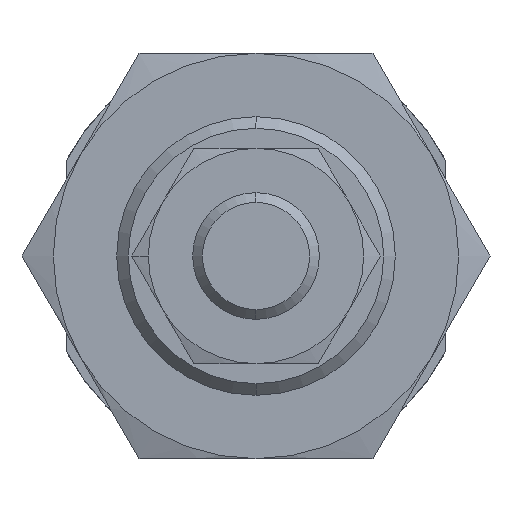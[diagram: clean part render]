
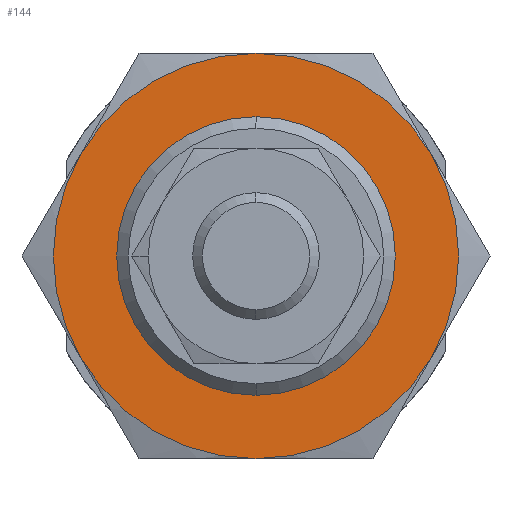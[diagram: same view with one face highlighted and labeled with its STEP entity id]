
A CAD part, left-side view. The second image highlights one B-rep face of the part: STEP entity #144.
In plain terms, the highlighted planar face has unit normal (-1, 0, 0).
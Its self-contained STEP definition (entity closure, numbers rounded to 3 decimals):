
#14 = DIRECTION ( 'NONE',  ( 0., 0., -1. ) ) ;
#47 = DIRECTION ( 'NONE',  ( 0., 0., -1. ) ) ;
#111 = DIRECTION ( 'NONE',  ( 0., 0., -1. ) ) ;
#123 = EDGE_CURVE ( 'NONE', #264, #530, #2021, .T. ) ;
#131 = CARTESIAN_POINT ( 'NONE',  ( -17.5, 0., 0. ) ) ;
#133 = EDGE_CURVE ( 'NONE', #4004, #3432, #498, .T. ) ;
#144 = ADVANCED_FACE ( 'NONE', ( #3423, #2453 ), #760, .T. ) ;
#264 = VERTEX_POINT ( 'NONE', #820 ) ;
#352 = EDGE_LOOP ( 'NONE', ( #3073, #1551, #1481, #3953, #2028, #3569 ) ) ;
#430 = CARTESIAN_POINT ( 'NONE',  ( -17.5, 13.856, 8. ) ) ;
#440 = DIRECTION ( 'NONE',  ( 0., 0., 1. ) ) ;
#457 = CARTESIAN_POINT ( 'NONE',  ( -17.5, 16., 0. ) ) ;
#498 = CIRCLE ( 'NONE', #1672, 16. ) ;
#510 = DIRECTION ( 'NONE',  ( 1., 0., 0. ) ) ;
#530 = VERTEX_POINT ( 'NONE', #1439 ) ;
#634 = AXIS2_PLACEMENT_3D ( 'NONE', #457, #1770, #440 ) ;
#757 = DIRECTION ( 'NONE',  ( 1., 0., 0. ) ) ;
#760 = PLANE ( 'NONE',  #634 ) ;
#785 = EDGE_CURVE ( 'NONE', #530, #264, #1782, .T. ) ;
#799 = CIRCLE ( 'NONE', #3227, 16. ) ;
#820 = CARTESIAN_POINT ( 'NONE',  ( -17.5, 0., -11. ) ) ;
#1083 = DIRECTION ( 'NONE',  ( 1., 0., 0. ) ) ;
#1152 = VERTEX_POINT ( 'NONE', #3742 ) ;
#1370 = AXIS2_PLACEMENT_3D ( 'NONE', #3016, #3378, #47 ) ;
#1413 = DIRECTION ( 'NONE',  ( 1., 0., 0. ) ) ;
#1439 = CARTESIAN_POINT ( 'NONE',  ( -17.5, 0., 11. ) ) ;
#1481 = ORIENTED_EDGE ( 'NONE', *, *, #1537, .F. ) ;
#1537 = EDGE_CURVE ( 'NONE', #2261, #3336, #3253, .T. ) ;
#1551 = ORIENTED_EDGE ( 'NONE', *, *, #3856, .F. ) ;
#1563 = CIRCLE ( 'NONE', #1370, 16. ) ;
#1663 = AXIS2_PLACEMENT_3D ( 'NONE', #2046, #3756, #1775 ) ;
#1672 = AXIS2_PLACEMENT_3D ( 'NONE', #2083, #1083, #3403 ) ;
#1770 = DIRECTION ( 'NONE',  ( -1., 0., 0. ) ) ;
#1775 = DIRECTION ( 'NONE',  ( 0., 0., -1. ) ) ;
#1782 = CIRCLE ( 'NONE', #3045, 11. ) ;
#1913 = AXIS2_PLACEMENT_3D ( 'NONE', #2948, #3940, #4219 ) ;
#2021 = CIRCLE ( 'NONE', #3614, 11. ) ;
#2028 = ORIENTED_EDGE ( 'NONE', *, *, #2993, .F. ) ;
#2046 = CARTESIAN_POINT ( 'NONE',  ( -17.5, 0., 0. ) ) ;
#2083 = CARTESIAN_POINT ( 'NONE',  ( -17.5, 0., 0. ) ) ;
#2117 = CIRCLE ( 'NONE', #1913, 16. ) ;
#2133 = CARTESIAN_POINT ( 'NONE',  ( -17.5, 0., 0. ) ) ;
#2151 = DIRECTION ( 'NONE',  ( 0., 0., -1. ) ) ;
#2261 = VERTEX_POINT ( 'NONE', #3753 ) ;
#2305 = VERTEX_POINT ( 'NONE', #4131 ) ;
#2410 = AXIS2_PLACEMENT_3D ( 'NONE', #2133, #510, #2151 ) ;
#2453 = FACE_BOUND ( 'NONE', #3561, .T. ) ;
#2666 = CARTESIAN_POINT ( 'NONE',  ( -17.5, 0., -16. ) ) ;
#2682 = DIRECTION ( 'NONE',  ( 1., 0., 0. ) ) ;
#2764 = CARTESIAN_POINT ( 'NONE',  ( -17.5, 0., 0. ) ) ;
#2781 = DIRECTION ( 'NONE',  ( 0., 0., -1. ) ) ;
#2788 = ORIENTED_EDGE ( 'NONE', *, *, #785, .T. ) ;
#2948 = CARTESIAN_POINT ( 'NONE',  ( -17.5, 0., 0. ) ) ;
#2983 = CARTESIAN_POINT ( 'NONE',  ( -17.5, 0., 0. ) ) ;
#2993 = EDGE_CURVE ( 'NONE', #1152, #2305, #2117, .T. ) ;
#3016 = CARTESIAN_POINT ( 'NONE',  ( -17.5, 0., 0. ) ) ;
#3045 = AXIS2_PLACEMENT_3D ( 'NONE', #2983, #2682, #14 ) ;
#3051 = EDGE_CURVE ( 'NONE', #3432, #1152, #1563, .T. ) ;
#3073 = ORIENTED_EDGE ( 'NONE', *, *, #133, .F. ) ;
#3160 = EDGE_CURVE ( 'NONE', #2305, #2261, #3924, .T. ) ;
#3227 = AXIS2_PLACEMENT_3D ( 'NONE', #131, #757, #111 ) ;
#3253 = CIRCLE ( 'NONE', #1663, 16. ) ;
#3336 = VERTEX_POINT ( 'NONE', #2666 ) ;
#3378 = DIRECTION ( 'NONE',  ( 1., 0., 0. ) ) ;
#3403 = DIRECTION ( 'NONE',  ( 0., 0., -1. ) ) ;
#3423 = FACE_OUTER_BOUND ( 'NONE', #352, .T. ) ;
#3432 = VERTEX_POINT ( 'NONE', #430 ) ;
#3543 = CARTESIAN_POINT ( 'NONE',  ( -17.5, 13.856, -8. ) ) ;
#3561 = EDGE_LOOP ( 'NONE', ( #2788, #4067 ) ) ;
#3569 = ORIENTED_EDGE ( 'NONE', *, *, #3051, .F. ) ;
#3614 = AXIS2_PLACEMENT_3D ( 'NONE', #2764, #1413, #2781 ) ;
#3742 = CARTESIAN_POINT ( 'NONE',  ( -17.5, 0., 16. ) ) ;
#3753 = CARTESIAN_POINT ( 'NONE',  ( -17.5, -13.856, -8. ) ) ;
#3756 = DIRECTION ( 'NONE',  ( 1., 0., 0. ) ) ;
#3856 = EDGE_CURVE ( 'NONE', #3336, #4004, #799, .T. ) ;
#3924 = CIRCLE ( 'NONE', #2410, 16. ) ;
#3940 = DIRECTION ( 'NONE',  ( 1., 0., 0. ) ) ;
#3953 = ORIENTED_EDGE ( 'NONE', *, *, #3160, .F. ) ;
#4004 = VERTEX_POINT ( 'NONE', #3543 ) ;
#4067 = ORIENTED_EDGE ( 'NONE', *, *, #123, .T. ) ;
#4131 = CARTESIAN_POINT ( 'NONE',  ( -17.5, -13.856, 8. ) ) ;
#4219 = DIRECTION ( 'NONE',  ( 0., 0., -1. ) ) ;
